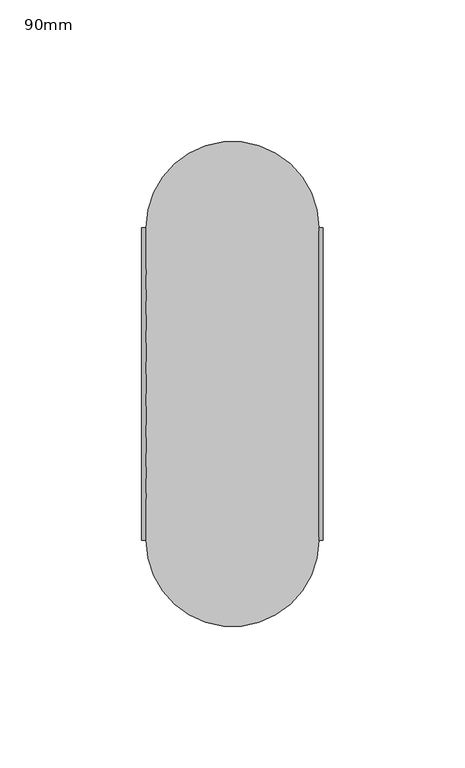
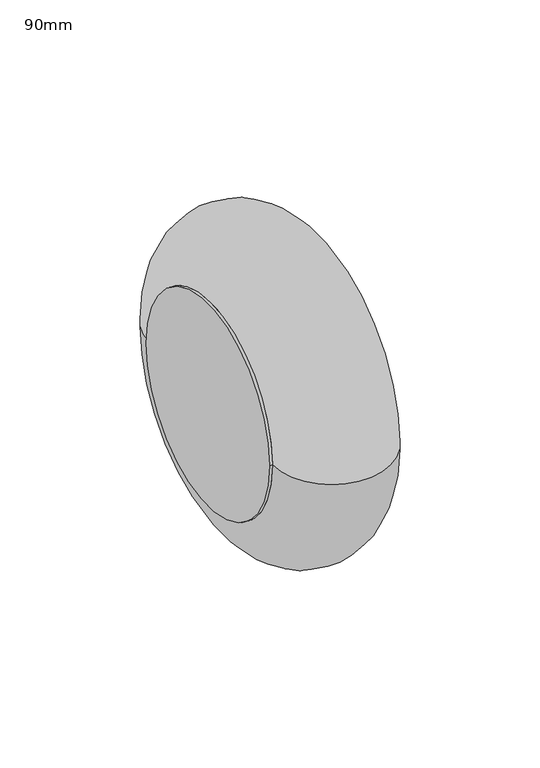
"""IFC4 building model written with IfcOpenShell, lengths in millimetres: pipe fitting geometry, PipeAccessory_HTA_CPVC_LinearExpansionCompensatorPN16 : 90mm."""

from ifc_helpers import new_model, si_unit, point, frame, origin, origin_2d, place, context, project, spatial, circle_curve, ellipse_curve, trimmed, segment, composite_curve, outline, extrude, source, transform, mapped, element, save
from ifc_brep_helpers import plane_surface, revolved_surface, advanced_brep


def pipe_fitting_90mm_207ded17(model_context):
    return source(origin(), model_context, "Body", "SolidModel", [
        extrude(outline(composite_curve([segment(trimmed(circle_curve(origin_2d(), 55.0), [point((-55.0, 0.0))], [point((55.0, 0.0))], False, "CARTESIAN"), True, "CONTINUOUS"), segment(trimmed(circle_curve(origin_2d(), 55.0), [point((55.0, 0.0))], [point((-55.0, 0.0))], False, "CARTESIAN"), True, "CONTINUOUS")], self_intersect=False)), frame((30.5, 0.0, 0.0), z_axis=(1.0, 0.0, 0.0), x_axis=(0.0, 1.0, 0.0)), (0.0, 0.0, 1.0), 1.5),
        extrude(outline(composite_curve([segment(trimmed(circle_curve(origin_2d(), 55.0), [point((-55.0, 0.0))], [point((55.0, 0.0))], False, "CARTESIAN"), True, "CONTINUOUS"), segment(trimmed(circle_curve(origin_2d(), 55.0), [point((55.0, 0.0))], [point((-55.0, 0.0))], False, "CARTESIAN"), True, "CONTINUOUS")], self_intersect=False)), frame((-32.0, 0.0, 0.0), z_axis=(1.0, 0.0, 0.0), x_axis=(0.0, 1.0, 0.0)), (0.0, 0.0, 1.0), 1.5),
        advanced_brep(
        [(-30.5, 0.0, 0.0), (-30.5, 55.0, 0.0), (-30.5, -55.0, 0.0), (30.5, -55.0, 0.0), (30.5, 55.0, 0.0), (30.5, 0.0, 0.0)],
        [
            (0, 1),
            (1, 2, circle_curve(frame((-30.5, 0.0, 0.0), z_axis=(-1.0, 0.0, 0.0), x_axis=(0.0, 1.0, 0.0)), 55.0)),
            (2, 0),
            (2, 1, circle_curve(frame((-30.5, 0.0, 0.0), z_axis=(-1.0, 0.0, 0.0), x_axis=(0.0, 1.0, 0.0)), 55.0)),
            (3, 4, circle_curve(frame((30.5, 0.0, 0.0), z_axis=(1.0, 0.0, 0.0), x_axis=(0.0, 1.0, 0.0)), 55.0)),
            (4, 5),
            (5, 3),
            (4, 3, circle_curve(frame((30.5, 0.0, 0.0), z_axis=(1.0, 0.0, 0.0), x_axis=(0.0, 1.0, 0.0)), 55.0)),
            (1, 4, circle_curve(frame((0.0, 55.0, 0.0), z_axis=(0.0, 0.0, -1.0), x_axis=(1.0, 0.0, 0.0)), 30.5)),
            (3, 2, circle_curve(frame((0.0, -55.0, 0.0), z_axis=(0.0, 0.0, -1.0), x_axis=(1.0, 0.0, 0.0)), 30.5)),
        ],
        [
            plane_surface(frame((-30.5, 0.0, 0.0), z_axis=(-1.0, 0.0, 0.0), x_axis=(0.0, 1.0, 0.0))),
            plane_surface(frame((30.5, 0.0, 0.0), z_axis=(1.0, 0.0, 0.0), x_axis=(0.0, 1.0, 0.0))),
            revolved_surface(trimmed(ellipse_curve(frame((0.0, 55.0, 0.0), z_axis=(0.0, 0.0, 1.0), x_axis=(1.0, 0.0, 0.0)), 30.5, 30.5), [point((30.5, 55.0, 0.0))], [point((-30.5, 55.0, 0.0))], True, "CARTESIAN"), (-30.5, 0.0, 0.0), (-1.0, 0.0, 0.0)),
        ],
        [
            (0, [[1, 2, 3]]),
            (0, [[-3, 4, -1]]),
            (1, [[5, 6, 7]]),
            (1, [[8, -7, -6]]),
            (2, [[-2, 9, -5, 10]]),
            (2, [[-4, -10, -8, -9]]),
        ],
    ),
    ])


if __name__ == "__main__":
    model = new_model("IFC4")
    model_context = context("Model", 3, world=origin())
    ifc_project = project(units=[si_unit("LENGTHUNIT", "METRE", prefix="MILLI")], contexts=[model_context])
    site = spatial("IfcSite", under=ifc_project)
    building = spatial("IfcBuilding", under=site)
    placement = place(None, origin())
    pipe_fitting_90mm_shape = pipe_fitting_90mm_207ded17(model_context)
    element("IfcPipeFitting", 1, ObjectType="PipeAccessory_HTA_CPVC_LinearExpansionCompensatorPN16 : 90mm", at=placement, inside=building, context=model_context, shape_type="MappedRepresentation", body=[
        mapped(pipe_fitting_90mm_shape, transform((0.0, 0.0, 0.0), x_axis=(1.0, 0.0, 0.0), y_axis=(0.0, 1.0, 0.0), z_axis=(0.0, 0.0, 1.0))),
    ])
    save(model, "model.ifc")
